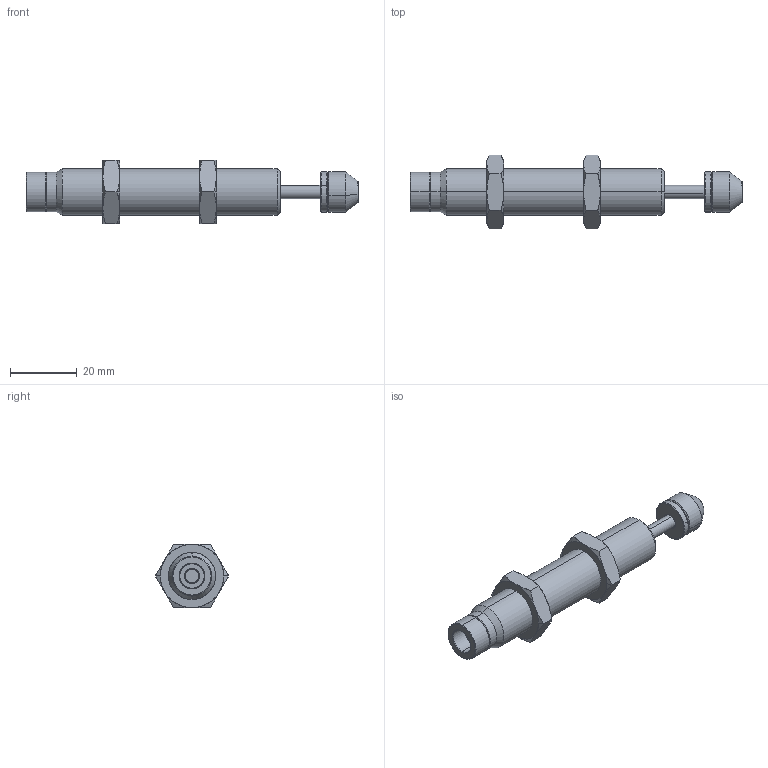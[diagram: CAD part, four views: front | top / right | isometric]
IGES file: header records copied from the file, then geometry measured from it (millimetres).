
Start section: SolidWorks IGES file using analytic representation for surfaces
Global section: file name: D:\IGS跡宒\AC1412(P1.0).IGS,1; native system: 5HSolidWorks 2013; preprocessor: SolidWorks 2013; author: Administrator; date: 160412.105652; units: inch
Bounding box: 99.2 x 21.94 x 19 mm (x, y, z)
Surface area: 6321.2 mm2 (no closed solid volume)
Topology: 0 solids, 0 shells, 86 faces, 1472 edges, 1472 vertices
Faces by surface type: revolution 60, bspline 26
